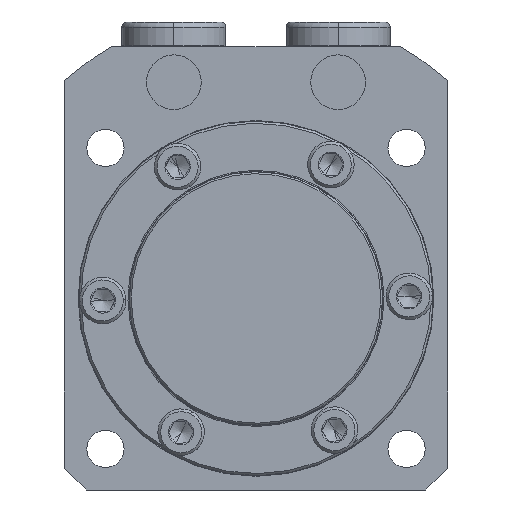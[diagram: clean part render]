
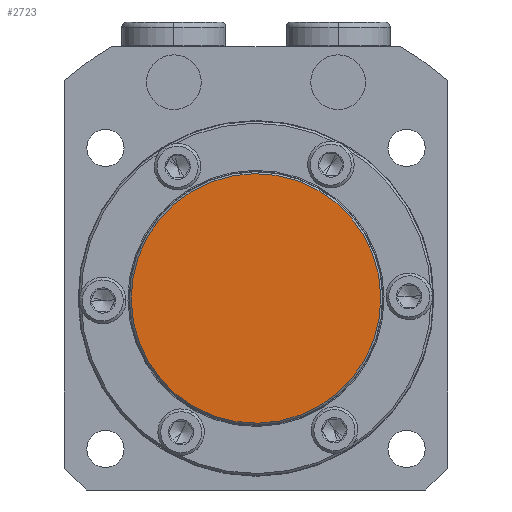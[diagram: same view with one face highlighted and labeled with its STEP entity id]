
A CAD part, front view. The second image highlights one B-rep face of the part: STEP entity #2723.
In plain terms, the highlighted planar face has unit normal (0, -1, 0).
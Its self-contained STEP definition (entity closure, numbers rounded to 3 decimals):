
#38 = AXIS2_PLACEMENT_3D ( 'NONE', #5994, #6023, #6024 ) ;
#170 = CARTESIAN_POINT ( 'NONE',  ( 0., -10.5, 0. ) ) ;
#171 = DIRECTION ( 'NONE',  ( 0., -1., 0. ) ) ;
#172 = DIRECTION ( 'NONE',  ( 0., 0., -1. ) ) ;
#702 = CARTESIAN_POINT ( 'NONE',  ( 0., -10.5, 0. ) ) ;
#703 = DIRECTION ( 'NONE',  ( 0., -1., 0. ) ) ;
#704 = DIRECTION ( 'NONE',  ( 0., 0., -1. ) ) ;
#1410 = EDGE_LOOP ( 'NONE', ( #3612, #3613 ) ) ;
#1574 = VERTEX_POINT ( 'NONE', #1822 ) ;
#1577 = VERTEX_POINT ( 'NONE', #1825 ) ;
#1822 = CARTESIAN_POINT ( 'NONE',  ( 0., -10.5, -22.8 ) ) ;
#1825 = CARTESIAN_POINT ( 'NONE',  ( 0., -10.5, 22.8 ) ) ;
#2723 = ADVANCED_FACE ( 'NONE', ( #6019 ), #6020, .T. ) ;
#3612 = ORIENTED_EDGE ( 'NONE', *, *, #4018, .T. ) ;
#3613 = ORIENTED_EDGE ( 'NONE', *, *, #3892, .T. ) ;
#3892 = EDGE_CURVE ( 'NONE', #1574, #1577, #4183, .T. ) ;
#4018 = EDGE_CURVE ( 'NONE', #1577, #1574, #4357, .T. ) ;
#4183 = CIRCLE ( 'NONE', #4190, 22.8 ) ;
#4190 = AXIS2_PLACEMENT_3D ( 'NONE', #170, #171, #172 ) ;
#4357 = CIRCLE ( 'NONE', #4360, 22.8 ) ;
#4360 = AXIS2_PLACEMENT_3D ( 'NONE', #702, #703, #704 ) ;
#5994 = CARTESIAN_POINT ( 'NONE',  ( 0., -10.5, 0. ) ) ;
#6019 = FACE_OUTER_BOUND ( 'NONE', #1410, .T. ) ;
#6020 = PLANE ( 'NONE',  #38 ) ;
#6023 = DIRECTION ( 'NONE',  ( 0., -1., 0. ) ) ;
#6024 = DIRECTION ( 'NONE',  ( 0., 0., -1. ) ) ;
